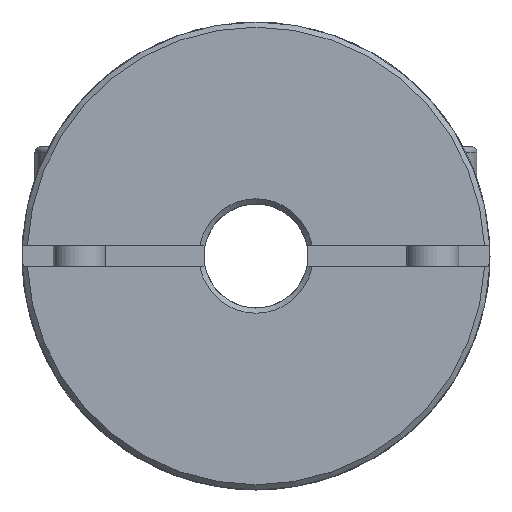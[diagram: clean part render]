
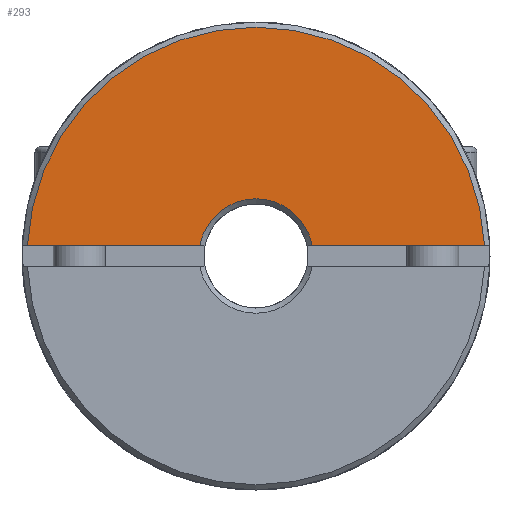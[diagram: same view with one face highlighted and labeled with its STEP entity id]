
A CAD part, left-side view. The second image highlights one B-rep face of the part: STEP entity #293.
In plain terms, the highlighted planar face has unit normal (-1, 0, 0) as drawn and (1, 0, 0) by its records, which use the part's own axes.
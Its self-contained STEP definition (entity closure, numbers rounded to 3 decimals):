
#293 = ADVANCED_FACE( '', ( #608 ), #609, .T. );
#608 = FACE_OUTER_BOUND( '', #1075, .T. );
#609 = PLANE( '', #1076 );
#1075 = EDGE_LOOP( '', ( #1583, #1584, #1585, #1586 ) );
#1076 = AXIS2_PLACEMENT_3D( '', #1587, #1588, #1589 );
#1583 = ORIENTED_EDGE( '', *, *, #2319, .F. );
#1584 = ORIENTED_EDGE( '', *, *, #2277, .T. );
#1585 = ORIENTED_EDGE( '', *, *, #2320, .F. );
#1586 = ORIENTED_EDGE( '', *, *, #2321, .T. );
#1587 = CARTESIAN_POINT( '', ( 17.5, 0., 22.5 ) );
#1588 = DIRECTION( '', ( 1., 0., 0. ) );
#1589 = DIRECTION( '', ( 0., 0., -1. ) );
#2277 = EDGE_CURVE( '', #2577, #2574, #2578, .T. );
#2319 = EDGE_CURVE( '', #2577, #2647, #2648, .T. );
#2320 = EDGE_CURVE( '', #2649, #2574, #2650, .T. );
#2321 = EDGE_CURVE( '', #2649, #2647, #2651, .F. );
#2574 = VERTEX_POINT( '', #2978 );
#2577 = VERTEX_POINT( '', #2984 );
#2578 = CIRCLE( '', #2985, 22. );
#2647 = VERTEX_POINT( '', #3213 );
#2648 = LINE( '', #3214, #3215 );
#2649 = VERTEX_POINT( '', #3216 );
#2650 = LINE( '', #3217, #3218 );
#2651 = CIRCLE( '', #3219, 5.5 );
#2978 = CARTESIAN_POINT( '', ( 17.5, -21.977, 1. ) );
#2984 = CARTESIAN_POINT( '', ( 17.5, 21.977, 1. ) );
#2985 = AXIS2_PLACEMENT_3D( '', #3712, #3713, #3714 );
#3213 = CARTESIAN_POINT( '', ( 17.5, 5.408, 1. ) );
#3214 = CARTESIAN_POINT( '', ( 17.5, 0., 1. ) );
#3215 = VECTOR( '', #3766, 1000. );
#3216 = CARTESIAN_POINT( '', ( 17.5, -5.408, 1. ) );
#3217 = CARTESIAN_POINT( '', ( 17.5, 0., 1. ) );
#3218 = VECTOR( '', #3767, 1000. );
#3219 = AXIS2_PLACEMENT_3D( '', #3768, #3769, #3770 );
#3712 = CARTESIAN_POINT( '', ( 17.5, 0., 0. ) );
#3713 = DIRECTION( '', ( 1., 0., 0. ) );
#3714 = DIRECTION( '', ( 0., 0., -1. ) );
#3766 = DIRECTION( '', ( 0., -1., 0. ) );
#3767 = DIRECTION( '', ( 0., -1., 0. ) );
#3768 = CARTESIAN_POINT( '', ( 17.5, 0., 0. ) );
#3769 = DIRECTION( '', ( 1., 0., 0. ) );
#3770 = DIRECTION( '', ( 0., 0., -1. ) );
